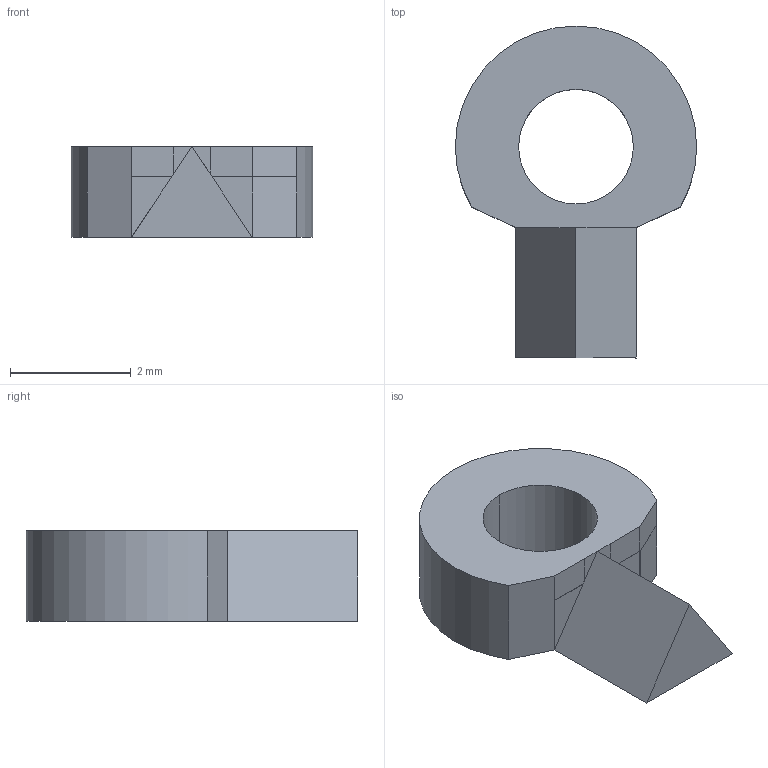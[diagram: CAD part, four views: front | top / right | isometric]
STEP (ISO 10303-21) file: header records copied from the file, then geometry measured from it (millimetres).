
FILE_DESCRIPTION(('STEP AP214'),'1');
FILE_NAME('tmp0.STEP','2026-08-22T14:29:03',(' '),(' '),'Spatial InterOp 3D',' ',' ');
FILE_SCHEMA(('AUTOMOTIVE_DESIGN { 1 0 10303 214 1 1 1 1 }'));
Length unit declared in the file: millimetre
Products named in the file (1): Thickness Data
Bounding box: 4 x 5.5 x 1.5 mm (x, y, z)
Volume: 15.6 mm3; surface area: 55.5 mm2
Topology: 1 solids, 1 shells, 28 faces, 65 edges, 39 vertices
Faces by surface type: plane 24, cylinder 4
Entity records: 802 total; most frequent: CARTESIAN_POINT 133, DIRECTION 131, ORIENTED_EDGE 130, EDGE_CURVE 65, LINE 57, VECTOR 57, VERTEX_POINT 39, AXIS2_PLACEMENT_3D 37
